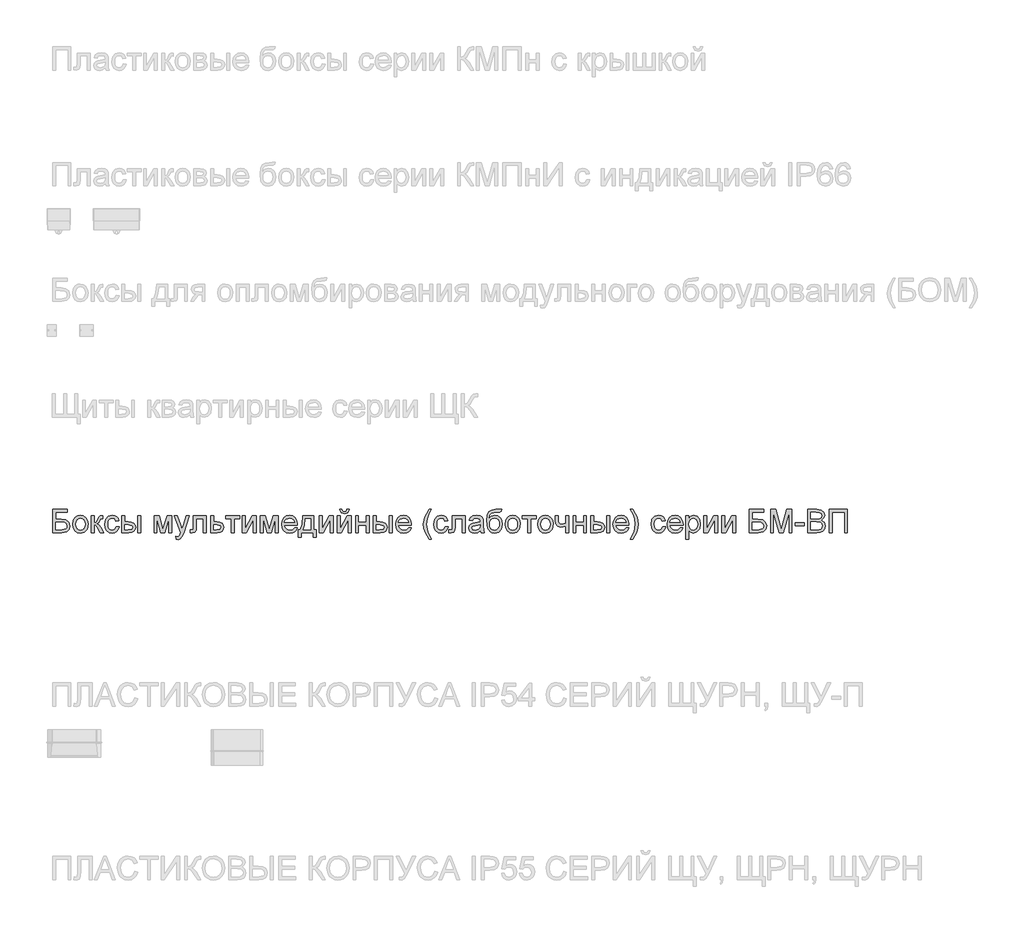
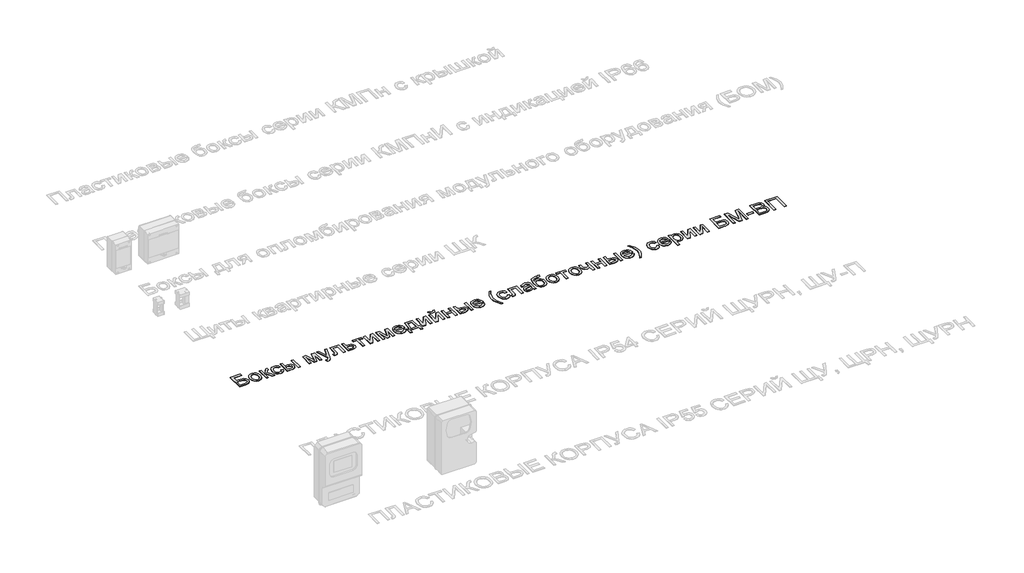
# One storey, part 17 of 25: 1 proxy.
"""IFC4 building model written with IfcOpenShell, lengths in millimetres."""

from ifc_helpers import new_model, si_unit, frame, origin, place, context, project, spatial, polyline, outline, extrude, element, save

model = new_model("IFC4")

# Units and contexts
model_context = context("Model", 3, world=origin())
ifc_project = project(units=[si_unit("LENGTHUNIT", "METRE", prefix="MILLI")], contexts=[model_context])

# Site, building, storey
site = spatial("IfcSite", under=ifc_project)
building = spatial("IfcBuilding", under=site)
storey = spatial("IfcBuildingStorey", under=building, Name="Этаж 01", Elevation=0.0)

# Proxy
placement = place(None, origin())
element("IfcBuildingElementProxy", 1, Name="Надпись на модели 1", ObjectType="Надпись на модели 1", at=placement, inside=storey, context=model_context, shape_type="SweptSolid", body=[
    extrude(outline(polyline([(-19038.1210387, 13636.6915941), (-18975.3358449, 13636.6915941), (-18975.3358449, 13624.1345554), (-19025.564, 13624.1345554), (-19025.564, 13594.3115883), (-19002.0440777, 13594.3115883), (-18981.3200587, 13591.7609398), (-18968.9837491, 13582.1224315), (-18964.348436, 13565.6413181), (-18967.6471112, 13551.3307085), (-18977.4940859, 13540.4536642), (-18999.7877348, 13536.235284), (-19038.1210387, 13536.235284), (-19038.1210387, 13636.6915941)]), holes=[polyline([(-19025.564, 13548.7923228), (-18998.6595634, 13548.7923228), (-18982.3501283, 13552.9371266), (-18978.2666381, 13558.1181313), (-18976.9054747, 13565.371538), (-18980.020209, 13575.20625), (-18988.6899613, 13580.4546998), (-19007.6113586, 13581.7545495), (-19025.564, 13581.7545495), (-19025.564, 13548.7923228)])]), frame((0.0, 0.0, 40.0), z_axis=(0.0, 0.0, 1.0), x_axis=(1.0, 0.0, 0.0)), (0.0, 0.0, 1.0), 2.0),
    extrude(outline(polyline([(-18951.7913972, 13573.1215854), (-18949.0752018, 13590.9086798), (-18940.9266156, 13603.4105363), (-18930.8589117, 13609.5357715), (-18918.804645, 13611.5775166), (-18905.6130097, 13609.0912475), (-18895.0762563, 13601.63244), (-18888.1692718, 13589.7897054), (-18885.8669437, 13574.151655), (-18889.9381711, 13551.8089551), (-18901.796234, 13539.1660772), (-18918.804645, 13534.6656541), (-18932.1556957, 13537.1427262), (-18942.6801864, 13544.5739426), (-18949.5135945, 13556.6649975), (-18951.7913972, 13573.1215854)]), holes=[polyline([(-18939.2343584, 13573.1461108), (-18937.7812245, 13561.7816229), (-18933.4218229, 13553.6851533), (-18926.8612607, 13548.838308), (-18918.804645, 13547.2226929), (-18910.7848175, 13548.8475051), (-18904.2365179, 13553.7219415), (-18899.8771163, 13561.92571), (-18898.4239824, 13573.5385183), (-18899.8863134, 13584.5719125), (-18904.2733061, 13592.5580175), (-18910.8308027, 13597.4048627), (-18918.804645, 13599.0204778), (-18926.8612607, 13597.4109941), (-18933.4218229, 13592.5825429), (-18937.7812245, 13584.5044674), (-18939.2343584, 13573.1461108)])]), frame((0.0, 0.0, 40.0), z_axis=(0.0, 0.0, 1.0), x_axis=(1.0, 0.0, 0.0)), (0.0, 0.0, 1.0), 2.0),
    extrude(outline(polyline([(-18871.740275, 13610.0078868), (-18859.1832363, 13610.0078868), (-18859.1832363, 13578.6152898), (-18850.7710013, 13580.8716327), (-18843.8793453, 13594.0172827), (-18838.1526489, 13605.3603109), (-18833.1004028, 13609.0513936), (-18823.9156157, 13610.0078868), (-18821.51212, 13610.0078868), (-18821.51212, 13597.3772716), (-18824.8966343, 13597.450848), (-18831.0280009, 13596.1264728), (-18835.344483, 13587.8613906), (-18840.4089918, 13578.9218582), (-18847.5091143, 13574.5440624), (-18839.5873887, 13569.6573633), (-18831.8128158, 13559.3627988), (-18818.3728603, 13536.235284), (-18832.6466817, 13536.235284), (-18845.8168571, 13558.8722894), (-18852.438733, 13568.449484), (-18859.1832363, 13570.7671406), (-18859.1832363, 13536.235284), (-18871.740275, 13536.235284), (-18871.740275, 13610.0078868)])), frame((0.0, 0.0, 40.0), z_axis=(0.0, 0.0, 1.0), x_axis=(1.0, 0.0, 0.0)), (0.0, 0.0, 1.0), 2.0),
    extrude(outline(polyline([(-18763.4358157, 13562.9189914), (-18750.8787769, 13561.3493615), (-18754.3797872, 13550.1810773), (-18760.9587436, 13541.7412512), (-18769.9963779, 13536.4345534), (-18780.8734222, 13534.6656541), (-18794.2306043, 13537.1335292), (-18804.6753873, 13544.5371544), (-18811.4168249, 13556.5515672), (-18813.6639707, 13572.8518052), (-18809.8257353, 13593.7107144), (-18798.1270878, 13607.1138817), (-18781.0451005, 13611.5775166), (-18770.4347706, 13610.044675), (-18761.9520249, 13605.44615), (-18755.8666436, 13598.0271964), (-18752.4484067, 13588.0330689), (-18765.0054455, 13586.4634391), (-18770.8302438, 13595.8689554), (-18780.9469986, 13599.0204778), (-18789.0618623, 13597.4692421), (-18795.5028629, 13592.8155349), (-18799.7059147, 13584.8079701), (-18801.106932, 13573.1951618), (-18799.7365715, 13561.4260036), (-18795.6254902, 13553.3908477), (-18789.3009856, 13548.7647316), (-18781.2903552, 13547.2226929), (-18769.4568177, 13551.0731911), (-18763.4358157, 13562.9189914)])), frame((0.0, 0.0, 40.0), z_axis=(0.0, 0.0, 1.0), x_axis=(1.0, 0.0, 0.0)), (0.0, 0.0, 1.0), 2.0),
    extrude(outline(polyline([(-18739.891368, 13610.0078868), (-18727.3343292, 13610.0078868), (-18727.3343292, 13583.3241794), (-18711.809709, 13583.3241794), (-18698.3912132, 13581.7514838), (-18688.4492023, 13577.0333973), (-18682.2963759, 13569.5500643), (-18680.2454338, 13559.6816298), (-18681.9652821, 13550.6961121), (-18687.1248271, 13543.1146773), (-18696.0612939, 13537.9551323), (-18709.1119077, 13536.235284), (-18739.891368, 13536.235284), (-18739.891368, 13610.0078868)]), holes=[polyline([(-18727.3343292, 13548.7923228), (-18714.4339339, 13548.7923228), (-18697.7811423, 13551.4288104), (-18692.8024726, 13559.6571044), (-18696.4935553, 13567.3826263), (-18712.7907277, 13570.7671406), (-18727.3343292, 13570.7671406), (-18727.3343292, 13548.7923228)])]), frame((0.0, 0.0, 40.0), z_axis=(0.0, 0.0, 1.0), x_axis=(1.0, 0.0, 0.0)), (0.0, 0.0, 1.0), 2.0),
    extrude(outline(polyline([(-18670.8276547, 13610.0078868), (-18658.270616, 13610.0078868), (-18658.270616, 13536.235284), (-18670.8276547, 13536.235284), (-18670.8276547, 13610.0078868)])), frame((0.0, 0.0, 40.0), z_axis=(0.0, 0.0, 1.0), x_axis=(1.0, 0.0, 0.0)), (0.0, 0.0, 1.0), 2.0),
    extrude(outline(polyline([(-18600.1943117, 13610.0078868), (-18578.5873758, 13610.0078868), (-18561.9345842, 13550.9505638), (-18543.9819428, 13610.0078868), (-18523.2824492, 13610.0078868), (-18523.2824492, 13536.235284), (-18535.839488, 13536.235284), (-18535.839488, 13595.6359635), (-18553.8902312, 13536.235284), (-18570.3713446, 13536.235284), (-18587.6372729, 13598.4809176), (-18587.6372729, 13536.235284), (-18600.1943117, 13536.235284), (-18600.1943117, 13610.0078868)])), frame((0.0, 0.0, 40.0), z_axis=(0.0, 0.0, 1.0), x_axis=(1.0, 0.0, 0.0)), (0.0, 0.0, 1.0), 2.0),
    extrude(outline(polyline([(-18504.4468911, 13507.9819468), (-18506.0165209, 13520.0730017), (-18499.6398997, 13518.9693557), (-18493.6802113, 13520.3550445), (-18490.0259168, 13524.2178055), (-18486.5923516, 13533.4639063), (-18485.6113329, 13536.5050641), (-18512.2950403, 13610.0078868), (-18499.0512885, 13610.0078868), (-18484.9000944, 13569.050358), (-18479.9704756, 13552.6673464), (-18475.0408569, 13567.1373716), (-18460.4972554, 13610.0078868), (-18447.3516054, 13610.0078868), (-18473.0297687, 13534.4694504), (-18479.7006955, 13518.0864389), (-18486.984759, 13509.2327455), (-18496.7704201, 13506.4123169), (-18504.4468911, 13507.9819468)])), frame((0.0, 0.0, 40.0), z_axis=(0.0, 0.0, 1.0), x_axis=(1.0, 0.0, 0.0)), (0.0, 0.0, 1.0), 2.0),
    extrude(outline(polyline([(-18430.6742883, 13610.0078868), (-18374.1676138, 13610.0078868), (-18374.1676138, 13536.3088604), (-18386.7246526, 13536.3088604), (-18386.7246526, 13597.450848), (-18418.1172495, 13597.450848), (-18418.1172495, 13562.2568038), (-18418.9633781, 13546.0209451), (-18423.610954, 13539.1660772), (-18434.5983629, 13536.235284), (-18444.8009569, 13536.8729461), (-18444.8009569, 13548.7923228), (-18439.1846251, 13548.7923228), (-18433.5069797, 13549.564875), (-18431.238374, 13552.0174216), (-18430.6742883, 13562.9680423), (-18430.6742883, 13610.0078868)])), frame((0.0, 0.0, 40.0), z_axis=(0.0, 0.0, 1.0), x_axis=(1.0, 0.0, 0.0)), (0.0, 0.0, 1.0), 2.0),
    extrude(outline(polyline([(-18355.3320557, 13610.0078868), (-18342.7750169, 13610.0078868), (-18342.7750169, 13583.3241794), (-18328.3049918, 13583.3241794), (-18315.7602157, 13581.7514838), (-18306.4773267, 13577.0333973), (-18300.7383676, 13569.5500643), (-18298.8253812, 13559.6816298), (-18300.453259, 13550.6961121), (-18305.3368925, 13543.1146773), (-18313.8012441, 13537.9551323), (-18326.1712762, 13536.235284), (-18355.3320557, 13536.235284), (-18355.3320557, 13610.0078868)]), holes=[polyline([(-18342.7750169, 13548.7923228), (-18331.051844, 13548.7923228), (-18315.9073685, 13551.4288104), (-18311.38242, 13559.6571044), (-18314.7301461, 13567.3826263), (-18329.5557906, 13570.7671406), (-18342.7750169, 13570.7671406), (-18342.7750169, 13548.7923228)])]), frame((0.0, 0.0, 40.0), z_axis=(0.0, 0.0, 1.0), x_axis=(1.0, 0.0, 0.0)), (0.0, 0.0, 1.0), 2.0),
    extrude(outline(polyline([(-18289.4076021, 13610.0078868), (-18229.761668, 13610.0078868), (-18229.761668, 13597.450848), (-18253.3061157, 13597.450848), (-18253.3061157, 13536.235284), (-18265.8631545, 13536.235284), (-18265.8631545, 13597.450848), (-18289.4076021, 13597.450848), (-18289.4076021, 13610.0078868)])), frame((0.0, 0.0, 40.0), z_axis=(0.0, 0.0, 1.0), x_axis=(1.0, 0.0, 0.0)), (0.0, 0.0, 1.0), 2.0),
    extrude(outline(polyline([(-18218.7742591, 13610.0078868), (-18206.2172203, 13610.0078868), (-18206.2172203, 13553.746467), (-18175.3641836, 13610.0078868), (-18159.1283249, 13610.0078868), (-18159.1283249, 13536.235284), (-18171.6853637, 13536.235284), (-18171.6853637, 13592.1533473), (-18202.3421966, 13536.235284), (-18218.7742591, 13536.235284), (-18218.7742591, 13610.0078868)])), frame((0.0, 0.0, 40.0), z_axis=(0.0, 0.0, 1.0), x_axis=(1.0, 0.0, 0.0)), (0.0, 0.0, 1.0), 2.0),
    extrude(outline(polyline([(-18140.2927668, 13610.0078868), (-18118.6858309, 13610.0078868), (-18102.0330393, 13550.9505638), (-18084.0803979, 13610.0078868), (-18063.3809043, 13610.0078868), (-18063.3809043, 13536.235284), (-18075.9379431, 13536.235284), (-18075.9379431, 13595.6359635), (-18093.9886863, 13536.235284), (-18110.4697997, 13536.235284), (-18127.735728, 13598.4809176), (-18127.735728, 13536.235284), (-18140.2927668, 13536.235284), (-18140.2927668, 13610.0078868)])), frame((0.0, 0.0, 40.0), z_axis=(0.0, 0.0, 1.0), x_axis=(1.0, 0.0, 0.0)), (0.0, 0.0, 1.0), 2.0),
    extrude(outline(polyline([(-17992.894714, 13558.2101018), (-17980.5829299, 13556.640472), (-17985.0189737, 13547.3637143), (-17992.0976364, 13540.4291387), (-18001.6595026, 13536.1065253), (-18013.5451567, 13534.6656541), (-18028.2788306, 13537.1519233), (-18039.6157274, 13544.6107308), (-18046.8446086, 13556.5576985), (-18049.2542357, 13572.5084487), (-18046.8200832, 13588.9956935), (-18039.5176256, 13601.3258717), (-18028.3340129, 13609.0146054), (-18014.2563952, 13611.5775166), (-18000.6171702, 13609.0207367), (-17989.7186661, 13601.3503971), (-17982.5725584, 13589.0447444), (-17980.1905225, 13572.5820251), (-17980.2640989, 13569.1975108), (-18036.6971969, 13569.1975108), (-18034.5236275, 13559.7981258), (-18029.4744471, 13552.8880756), (-18022.1873179, 13548.6390386), (-18013.299902, 13547.2226929), (-18000.9881179, 13549.8469178), (-17992.894714, 13558.2101018)]), holes=[polyline([(-18036.6971969, 13581.7545495), (-17992.7475612, 13581.7545495), (-17997.7752818, 13593.1343659), (-18005.0961335, 13597.5489499), (-18014.3054462, 13599.0204778), (-18029.7687527, 13594.323851), (-18034.6339921, 13588.8332123), (-18036.6971969, 13581.7545495)])]), frame((0.0, 0.0, 40.0), z_axis=(0.0, 0.0, 1.0), x_axis=(1.0, 0.0, 0.0)), (0.0, 0.0, 1.0), 2.0),
    extrude(outline(polyline([(-17956.6460748, 13610.0078868), (-17909.5571794, 13610.0078868), (-17909.5571794, 13548.7923228), (-17900.1394003, 13548.7923228), (-17900.1394003, 13515.830096), (-17912.6964391, 13515.830096), (-17912.6964391, 13536.235284), (-17964.494224, 13536.235284), (-17964.494224, 13515.830096), (-17977.0512628, 13515.830096), (-17977.0512628, 13548.7923228), (-17969.2031135, 13548.7923228), (-17959.5032916, 13572.7414406), (-17956.6460748, 13610.0078868)]), holes=[polyline([(-17945.6586659, 13597.450848), (-17948.6017218, 13568.8418915), (-17955.0764449, 13548.7923228), (-17922.1142182, 13548.7923228), (-17922.1142182, 13597.450848), (-17945.6586659, 13597.450848)])]), frame((0.0, 0.0, 40.0), z_axis=(0.0, 0.0, 1.0), x_axis=(1.0, 0.0, 0.0)), (0.0, 0.0, 1.0), 2.0),
    extrude(outline(polyline([(-17886.0127317, 13610.0078868), (-17873.4556929, 13610.0078868), (-17873.4556929, 13553.746467), (-17842.6026563, 13610.0078868), (-17826.3667975, 13610.0078868), (-17826.3667975, 13536.235284), (-17838.9238363, 13536.235284), (-17838.9238363, 13592.1533473), (-17869.5806692, 13536.235284), (-17886.0127317, 13536.235284), (-17886.0127317, 13610.0078868)])), frame((0.0, 0.0, 40.0), z_axis=(0.0, 0.0, 1.0), x_axis=(1.0, 0.0, 0.0)), (0.0, 0.0, 1.0), 2.0),
    extrude(outline(polyline([(-17807.5312394, 13610.0078868), (-17794.9742006, 13610.0078868), (-17794.9742006, 13553.746467), (-17764.121164, 13610.0078868), (-17747.8853052, 13610.0078868), (-17747.8853052, 13536.235284), (-17760.442344, 13536.235284), (-17760.442344, 13592.1533473), (-17791.0991769, 13536.235284), (-17807.5312394, 13536.235284), (-17807.5312394, 13610.0078868)])), frame((0.0, 0.0, 40.0), z_axis=(0.0, 0.0, 1.0), x_axis=(1.0, 0.0, 0.0)), (0.0, 0.0, 1.0), 2.0),
    extrude(outline(polyline([(-17766.7208634, 13636.6915941), (-17757.3030843, 13636.6915941), (-17763.3976627, 13622.7243411), (-17776.9234574, 13617.856036), (-17791.5651608, 13622.6875529), (-17798.1134603, 13636.6915941), (-17788.6956812, 13636.6915941), (-17785.1640141, 13629.6159971), (-17778.0516288, 13627.2738151), (-17770.2525306, 13629.5424207), (-17766.7208634, 13636.6915941)])), frame((0.0, 0.0, 40.0), z_axis=(0.0, 0.0, 1.0), x_axis=(1.0, 0.0, 0.0)), (0.0, 0.0, 1.0), 2.0),
    extrude(outline(polyline([(-17729.0497471, 13610.0078868), (-17716.4927083, 13610.0078868), (-17716.4927083, 13581.7545495), (-17683.5304816, 13581.7545495), (-17683.5304816, 13610.0078868), (-17670.9734428, 13610.0078868), (-17670.9734428, 13536.235284), (-17683.5304816, 13536.235284), (-17683.5304816, 13569.1975108), (-17716.4927083, 13569.1975108), (-17716.4927083, 13536.235284), (-17729.0497471, 13536.235284), (-17729.0497471, 13610.0078868)])), frame((0.0, 0.0, 40.0), z_axis=(0.0, 0.0, 1.0), x_axis=(1.0, 0.0, 0.0)), (0.0, 0.0, 1.0), 2.0),
    extrude(outline(polyline([(-17583.0741714, 13610.0078868), (-17570.5171326, 13610.0078868), (-17570.5171326, 13536.235284), (-17583.0741714, 13536.235284), (-17583.0741714, 13610.0078868)])), frame((0.0, 0.0, 40.0), z_axis=(0.0, 0.0, 1.0), x_axis=(1.0, 0.0, 0.0)), (0.0, 0.0, 1.0), 2.0),
    extrude(outline(polyline([(-17652.1378846, 13610.0078868), (-17639.5808459, 13610.0078868), (-17639.5808459, 13583.3241794), (-17624.0562257, 13583.3241794), (-17610.6377299, 13581.7514838), (-17600.695719, 13577.0333973), (-17594.5428926, 13569.5500643), (-17592.4919505, 13559.6816298), (-17594.2117988, 13550.6961121), (-17599.3713438, 13543.1146773), (-17608.3078106, 13537.9551323), (-17621.3584244, 13536.235284), (-17652.1378846, 13536.235284), (-17652.1378846, 13610.0078868)]), holes=[polyline([(-17639.5808459, 13548.7923228), (-17626.6804506, 13548.7923228), (-17610.0276589, 13551.4288104), (-17605.0489892, 13559.6571044), (-17608.7400719, 13567.3826263), (-17625.0372443, 13570.7671406), (-17639.5808459, 13570.7671406), (-17639.5808459, 13548.7923228)])]), frame((0.0, 0.0, 40.0), z_axis=(0.0, 0.0, 1.0), x_axis=(1.0, 0.0, 0.0)), (0.0, 0.0, 1.0), 2.0),
    extrude(outline(polyline([(-17500.0309424, 13558.2101018), (-17487.7191583, 13556.640472), (-17492.155202, 13547.3637143), (-17499.2338647, 13540.4291387), (-17508.7957309, 13536.1065253), (-17520.681385, 13534.6656541), (-17535.4150589, 13537.1519233), (-17546.7519557, 13544.6107308), (-17553.980837, 13556.5576985), (-17556.390464, 13572.5084487), (-17553.9563115, 13588.9956935), (-17546.6538539, 13601.3258717), (-17535.4702412, 13609.0146054), (-17521.3926235, 13611.5775166), (-17507.7533986, 13609.0207367), (-17496.8548945, 13601.3503971), (-17489.7087867, 13589.0447444), (-17487.3267508, 13572.5820251), (-17487.4003272, 13569.1975108), (-17543.8334253, 13569.1975108), (-17541.6598558, 13559.7981258), (-17536.6106754, 13552.8880756), (-17529.3235462, 13548.6390386), (-17520.4361304, 13547.2226929), (-17508.1243463, 13549.8469178), (-17500.0309424, 13558.2101018)]), holes=[polyline([(-17543.8334253, 13581.7545495), (-17499.8837896, 13581.7545495), (-17504.9115102, 13593.1343659), (-17512.2323619, 13597.5489499), (-17521.4416745, 13599.0204778), (-17536.904981, 13594.323851), (-17541.7702204, 13588.8332123), (-17543.8334253, 13581.7545495)])]), frame((0.0, 0.0, 40.0), z_axis=(0.0, 0.0, 1.0), x_axis=(1.0, 0.0, 0.0)), (0.0, 0.0, 1.0), 2.0),
    extrude(outline(polyline([(-17410.4148883, 13507.9819468), (-17428.2449024, 13537.4370318), (-17433.70795, 13554.617121), (-17435.5289659, 13572.4103469), (-17430.0843123, 13602.9445525), (-17410.4148883, 13636.6915941), (-17400.9971093, 13636.6915941), (-17412.7448076, 13616.8014409), (-17419.8081419, 13597.5244244), (-17422.9719271, 13572.3367705), (-17417.4782226, 13540.1470959), (-17400.9971093, 13507.9819468), (-17410.4148883, 13507.9819468)])), frame((0.0, 0.0, 40.0), z_axis=(0.0, 0.0, 1.0), x_axis=(1.0, 0.0, 0.0)), (0.0, 0.0, 1.0), 2.0),
    extrude(outline(polyline([(-17341.3511751, 13562.9189914), (-17328.7941363, 13561.3493615), (-17332.2951467, 13550.1810773), (-17338.874103, 13541.7412512), (-17347.9117374, 13536.4345534), (-17358.7887817, 13534.6656541), (-17372.1459638, 13537.1335292), (-17382.5907468, 13544.5371544), (-17389.3321843, 13556.5515672), (-17391.5793302, 13572.8518052), (-17387.7410947, 13593.7107144), (-17376.0424473, 13607.1138817), (-17358.9604599, 13611.5775166), (-17348.3501301, 13610.044675), (-17339.8673844, 13605.44615), (-17333.7820031, 13598.0271964), (-17330.3637662, 13588.0330689), (-17342.920805, 13586.4634391), (-17348.7456032, 13595.8689554), (-17358.8623581, 13599.0204778), (-17366.9772218, 13597.4692421), (-17373.4182224, 13592.8155349), (-17377.6212741, 13584.8079701), (-17379.0222914, 13573.1951618), (-17377.651931, 13561.4260036), (-17373.5408497, 13553.3908477), (-17367.2163451, 13548.7647316), (-17359.2057146, 13547.2226929), (-17347.3721771, 13551.0731911), (-17341.3511751, 13562.9189914)])), frame((0.0, 0.0, 40.0), z_axis=(0.0, 0.0, 1.0), x_axis=(1.0, 0.0, 0.0)), (0.0, 0.0, 1.0), 2.0),
    extrude(outline(polyline([(-17311.528208, 13610.0078868), (-17255.0215336, 13610.0078868), (-17255.0215336, 13536.3088604), (-17267.5785723, 13536.3088604), (-17267.5785723, 13597.450848), (-17298.9711693, 13597.450848), (-17298.9711693, 13562.2568038), (-17299.8172979, 13546.0209451), (-17304.4648737, 13539.1660772), (-17315.4522826, 13536.235284), (-17325.6548766, 13536.8729461), (-17325.6548766, 13548.7923228), (-17320.0385449, 13548.7923228), (-17314.3608994, 13549.564875), (-17312.0922938, 13552.0174216), (-17311.528208, 13562.9680423), (-17311.528208, 13610.0078868)])), frame((0.0, 0.0, 40.0), z_axis=(0.0, 0.0, 1.0), x_axis=(1.0, 0.0, 0.0)), (0.0, 0.0, 1.0), 2.0),
    extrude(outline(polyline([(-17189.09708, 13545.6530631), (-17201.2739741, 13537.1427262), (-17214.7261924, 13534.6656541), (-17225.2200263, 13536.1555762), (-17232.9608766, 13540.6253425), (-17237.7341455, 13547.4127653), (-17239.3252351, 13555.8556571), (-17236.9217394, 13565.7884709), (-17230.6064318, 13572.998958), (-17221.8140521, 13577.1192364), (-17210.9492705, 13579.0076973), (-17189.1706564, 13583.3241794), (-17189.09708, 13586.1200825), (-17192.5551708, 13595.3907088), (-17206.4365847, 13599.0204778), (-17219.1407763, 13596.6047194), (-17225.1985665, 13588.0330689), (-17237.7556053, 13589.6026988), (-17232.3232145, 13601.8654319), (-17221.3848565, 13609.0513936), (-17204.817904, 13611.5775166), (-17189.5998521, 13609.3456992), (-17181.0036761, 13603.7416301), (-17177.1531779, 13595.2190306), (-17176.5400413, 13584.2316216), (-17176.5400413, 13568.6088996), (-17175.9023791, 13546.7934973), (-17173.4007816, 13536.235284), (-17185.9578203, 13536.235284), (-17189.09708, 13545.6530631)]), holes=[polyline([(-17189.09708, 13570.7671406), (-17209.3551152, 13566.9166424), (-17220.1585832, 13564.8810287), (-17225.0514137, 13561.5700907), (-17226.7681963, 13556.7385739), (-17223.0280627, 13549.9450197), (-17212.0529165, 13547.2226929), (-17199.348725, 13550.2270625), (-17191.1572192, 13557.4988633), (-17189.1706564, 13567.210948), (-17189.09708, 13570.7671406)])]), frame((0.0, 0.0, 40.0), z_axis=(0.0, 0.0, 1.0), x_axis=(1.0, 0.0, 0.0)), (0.0, 0.0, 1.0), 2.0),
    extrude(outline(polyline([(-17107.476328, 13638.261224), (-17096.4889191, 13638.261224), (-17099.7262807, 13628.4633002), (-17106.1274274, 13624.9193703), (-17121.5048948, 13624.1345554), (-17142.2166511, 13621.2405503), (-17150.1629022, 13611.9699241), (-17152.8484408, 13595.5623871), (-17141.9713965, 13607.5798656), (-17127.9550924, 13611.5775166), (-17114.8891502, 13609.0360652), (-17104.2880174, 13601.4117108), (-17097.2614713, 13589.4524803), (-17094.9192893, 13573.9064003), (-17099.5668651, 13552.2994644), (-17110.5910623, 13539.2641791), (-17127.9550924, 13534.6656541), (-17139.2889236, 13536.1463792), (-17147.783932, 13540.5885543), (-17158.6364508, 13555.7452925), (-17162.4133727, 13587.9104416), (-17160.0313367, 13612.0036466), (-17152.885229, 13626.6974666), (-17140.7972398, 13634.1930623), (-17123.5895594, 13636.6915941), (-17109.6100436, 13636.973637), (-17107.476328, 13638.261224)]), holes=[polyline([(-17107.476328, 13574.2988078), (-17108.8374914, 13584.179505), (-17112.9209816, 13592.0920336), (-17119.4815438, 13597.2883668), (-17128.2739235, 13599.0204778), (-17137.4403165, 13597.1902649), (-17144.2400021, 13591.6996261), (-17148.4522509, 13583.1494354), (-17149.8563339, 13572.1405667), (-17148.3050981, 13561.4689232), (-17143.6513909, 13553.6361024), (-17136.7229467, 13548.8260453), (-17128.3474999, 13547.2226929), (-17119.9291336, 13549.0774313), (-17113.2643381, 13554.6416465), (-17108.9233306, 13563.2654136), (-17107.476328, 13574.2988078)])]), frame((0.0, 0.0, 40.0), z_axis=(0.0, 0.0, 1.0), x_axis=(1.0, 0.0, 0.0)), (0.0, 0.0, 1.0), 2.0),
    extrude(outline(polyline([(-17082.3622505, 13573.1215854), (-17079.6460551, 13590.9086798), (-17071.4974689, 13603.4105363), (-17061.429765, 13609.5357715), (-17049.3754983, 13611.5775166), (-17036.1838631, 13609.0912475), (-17025.6471096, 13601.63244), (-17018.7401251, 13589.7897054), (-17016.437797, 13574.151655), (-17020.5090244, 13551.8089551), (-17032.3670874, 13539.1660772), (-17049.3754983, 13534.6656541), (-17062.726549, 13537.1427262), (-17073.2510398, 13544.5739426), (-17080.0844478, 13556.6649975), (-17082.3622505, 13573.1215854)]), holes=[polyline([(-17069.8052117, 13573.1461108), (-17068.3520779, 13561.7816229), (-17063.9926762, 13553.6851533), (-17057.432114, 13548.838308), (-17049.3754983, 13547.2226929), (-17041.3556708, 13548.8475051), (-17034.8073713, 13553.7219415), (-17030.4479696, 13561.92571), (-17028.9948357, 13573.5385183), (-17030.4571667, 13584.5719125), (-17034.8441595, 13592.5580175), (-17041.401656, 13597.4048627), (-17049.3754983, 13599.0204778), (-17057.432114, 13597.4109941), (-17063.9926762, 13592.5825429), (-17068.3520779, 13584.5044674), (-17069.8052117, 13573.1461108)])]), frame((0.0, 0.0, 40.0), z_axis=(0.0, 0.0, 1.0), x_axis=(1.0, 0.0, 0.0)), (0.0, 0.0, 1.0), 2.0),
    extrude(outline(polyline([(-17008.5896477, 13610.0078868), (-16948.9437136, 13610.0078868), (-16948.9437136, 13597.450848), (-16972.4881613, 13597.450848), (-16972.4881613, 13536.235284), (-16985.0452, 13536.235284), (-16985.0452, 13597.450848), (-17008.5896477, 13597.450848), (-17008.5896477, 13610.0078868)])), frame((0.0, 0.0, 40.0), z_axis=(0.0, 0.0, 1.0), x_axis=(1.0, 0.0, 0.0)), (0.0, 0.0, 1.0), 2.0),
    extrude(outline(polyline([(-16941.0955644, 13573.1215854), (-16938.379369, 13590.9086798), (-16930.2307828, 13603.4105363), (-16920.1630788, 13609.5357715), (-16908.1088121, 13611.5775166), (-16894.9171769, 13609.0912475), (-16884.3804234, 13601.63244), (-16877.473439, 13589.7897054), (-16875.1711108, 13574.151655), (-16879.2423382, 13551.8089551), (-16891.1004012, 13539.1660772), (-16908.1088121, 13534.6656541), (-16921.4598629, 13537.1427262), (-16931.9843536, 13544.5739426), (-16938.8177617, 13556.6649975), (-16941.0955644, 13573.1215854)]), holes=[polyline([(-16928.5385256, 13573.1461108), (-16927.0853917, 13561.7816229), (-16922.7259901, 13553.6851533), (-16916.1654278, 13548.838308), (-16908.1088121, 13547.2226929), (-16900.0889846, 13548.8475051), (-16893.5406851, 13553.7219415), (-16889.1812835, 13561.92571), (-16887.7281496, 13573.5385183), (-16889.1904805, 13584.5719125), (-16893.5774733, 13592.5580175), (-16900.1349699, 13597.4048627), (-16908.1088121, 13599.0204778), (-16916.1654278, 13597.4109941), (-16922.7259901, 13592.5825429), (-16927.0853917, 13584.5044674), (-16928.5385256, 13573.1461108)])]), frame((0.0, 0.0, 40.0), z_axis=(0.0, 0.0, 1.0), x_axis=(1.0, 0.0, 0.0)), (0.0, 0.0, 1.0), 2.0),
    extrude(outline(polyline([(-16865.7533317, 13610.0078868), (-16853.196293, 13610.0078868), (-16853.196293, 13595.8566927), (-16852.1784861, 13582.5884154), (-16847.2856556, 13575.4024537), (-16837.5735709, 13572.3367705), (-16820.2340662, 13576.1382177), (-16820.2340662, 13610.0078868), (-16807.6770274, 13610.0078868), (-16807.6770274, 13536.235284), (-16820.2340662, 13536.235284), (-16820.2340662, 13564.0962138), (-16840.9335598, 13559.7797317), (-16855.170593, 13564.2801548), (-16863.5460398, 13575.3043519), (-16865.7533317, 13589.6517497), (-16865.7533317, 13610.0078868)])), frame((0.0, 0.0, 40.0), z_axis=(0.0, 0.0, 1.0), x_axis=(1.0, 0.0, 0.0)), (0.0, 0.0, 1.0), 2.0),
    extrude(outline(polyline([(-16788.8414693, 13610.0078868), (-16776.2844305, 13610.0078868), (-16776.2844305, 13581.7545495), (-16743.3222037, 13581.7545495), (-16743.3222037, 13610.0078868), (-16730.765165, 13610.0078868), (-16730.765165, 13536.235284), (-16743.3222037, 13536.235284), (-16743.3222037, 13569.1975108), (-16776.2844305, 13569.1975108), (-16776.2844305, 13536.235284), (-16788.8414693, 13536.235284), (-16788.8414693, 13610.0078868)])), frame((0.0, 0.0, 40.0), z_axis=(0.0, 0.0, 1.0), x_axis=(1.0, 0.0, 0.0)), (0.0, 0.0, 1.0), 2.0),
    extrude(outline(polyline([(-16642.8658936, 13610.0078868), (-16630.3088548, 13610.0078868), (-16630.3088548, 13536.235284), (-16642.8658936, 13536.235284), (-16642.8658936, 13610.0078868)])), frame((0.0, 0.0, 40.0), z_axis=(0.0, 0.0, 1.0), x_axis=(1.0, 0.0, 0.0)), (0.0, 0.0, 1.0), 2.0),
    extrude(outline(polyline([(-16711.9296068, 13610.0078868), (-16699.3725681, 13610.0078868), (-16699.3725681, 13583.3241794), (-16683.8479479, 13583.3241794), (-16670.4294521, 13581.7514838), (-16660.4874412, 13577.0333973), (-16654.3346148, 13569.5500643), (-16652.2836727, 13559.6816298), (-16654.003521, 13550.6961121), (-16659.163066, 13543.1146773), (-16668.0995328, 13537.9551323), (-16681.1501466, 13536.235284), (-16711.9296068, 13536.235284), (-16711.9296068, 13610.0078868)]), holes=[polyline([(-16699.3725681, 13548.7923228), (-16686.4721728, 13548.7923228), (-16669.8193811, 13551.4288104), (-16664.8407114, 13559.6571044), (-16668.5317941, 13567.3826263), (-16684.8289665, 13570.7671406), (-16699.3725681, 13570.7671406), (-16699.3725681, 13548.7923228)])]), frame((0.0, 0.0, 40.0), z_axis=(0.0, 0.0, 1.0), x_axis=(1.0, 0.0, 0.0)), (0.0, 0.0, 1.0), 2.0),
    extrude(outline(polyline([(-16559.8226646, 13558.2101018), (-16547.5108804, 13556.640472), (-16551.9469242, 13547.3637143), (-16559.0255869, 13540.4291387), (-16568.5874531, 13536.1065253), (-16580.4731072, 13534.6656541), (-16595.2067811, 13537.1519233), (-16606.5436779, 13544.6107308), (-16613.7725591, 13556.5576985), (-16616.1821862, 13572.5084487), (-16613.7480337, 13588.9956935), (-16606.4455761, 13601.3258717), (-16595.2619634, 13609.0146054), (-16581.1843457, 13611.5775166), (-16567.5451208, 13609.0207367), (-16556.6466167, 13601.3503971), (-16549.5005089, 13589.0447444), (-16547.118473, 13572.5820251), (-16547.1920494, 13569.1975108), (-16603.6251474, 13569.1975108), (-16601.451578, 13559.7981258), (-16596.4023976, 13552.8880756), (-16589.1152684, 13548.6390386), (-16580.2278526, 13547.2226929), (-16567.9160684, 13549.8469178), (-16559.8226646, 13558.2101018)]), holes=[polyline([(-16603.6251474, 13581.7545495), (-16559.6755118, 13581.7545495), (-16564.7032324, 13593.1343659), (-16572.0240841, 13597.5489499), (-16581.2333967, 13599.0204778), (-16596.6967032, 13594.323851), (-16601.5619426, 13588.8332123), (-16603.6251474, 13581.7545495)])]), frame((0.0, 0.0, 40.0), z_axis=(0.0, 0.0, 1.0), x_axis=(1.0, 0.0, 0.0)), (0.0, 0.0, 1.0), 2.0),
    extrude(outline(polyline([(-16531.4221745, 13507.9819468), (-16540.8399536, 13507.9819468), (-16524.3588402, 13540.1470959), (-16518.8651358, 13572.3367705), (-16522.0289209, 13597.3036952), (-16529.0186788, 13616.6052372), (-16540.8399536, 13636.6915941), (-16531.4221745, 13636.6915941), (-16511.7527505, 13602.9445525), (-16506.308097, 13572.4103469), (-16508.1383099, 13554.617121), (-16513.6289487, 13537.4370318), (-16531.4221745, 13507.9819468)])), frame((0.0, 0.0, 40.0), z_axis=(0.0, 0.0, 1.0), x_axis=(1.0, 0.0, 0.0)), (0.0, 0.0, 1.0), 2.0),
    extrude(outline(polyline([(-16401.1428973, 13562.9189914), (-16388.5858585, 13561.3493615), (-16392.0868689, 13550.1810773), (-16398.6658252, 13541.7412512), (-16407.7034595, 13536.4345534), (-16418.5805039, 13534.6656541), (-16431.937686, 13537.1335292), (-16442.382469, 13544.5371544), (-16449.1239065, 13556.5515672), (-16451.3710524, 13572.8518052), (-16447.5328169, 13593.7107144), (-16435.8341694, 13607.1138817), (-16418.7521821, 13611.5775166), (-16408.1418523, 13610.044675), (-16399.6591066, 13605.44615), (-16393.5737252, 13598.0271964), (-16390.1554884, 13588.0330689), (-16402.7125271, 13586.4634391), (-16408.5373254, 13595.8689554), (-16418.6540803, 13599.0204778), (-16426.7689439, 13597.4692421), (-16433.2099445, 13592.8155349), (-16437.4129963, 13584.8079701), (-16438.8140136, 13573.1951618), (-16437.4436532, 13561.4260036), (-16433.3325719, 13553.3908477), (-16427.0080672, 13548.7647316), (-16418.9974368, 13547.2226929), (-16407.1638993, 13551.0731911), (-16401.1428973, 13562.9189914)])), frame((0.0, 0.0, 40.0), z_axis=(0.0, 0.0, 1.0), x_axis=(1.0, 0.0, 0.0)), (0.0, 0.0, 1.0), 2.0),
    extrude(outline(polyline([(-16325.9478175, 13558.2101018), (-16313.6360334, 13556.640472), (-16318.0720771, 13547.3637143), (-16325.1507398, 13540.4291387), (-16334.712606, 13536.1065253), (-16346.5982601, 13534.6656541), (-16361.3319341, 13537.1519233), (-16372.6688309, 13544.6107308), (-16379.8977121, 13556.5576985), (-16382.3073391, 13572.5084487), (-16379.8731866, 13588.9956935), (-16372.570729, 13601.3258717), (-16361.3871164, 13609.0146054), (-16347.3094987, 13611.5775166), (-16333.6702737, 13609.0207367), (-16322.7717696, 13601.3503971), (-16315.6256618, 13589.0447444), (-16313.2436259, 13572.5820251), (-16313.3172023, 13569.1975108), (-16369.7503004, 13569.1975108), (-16367.5767309, 13559.7981258), (-16362.5275505, 13552.8880756), (-16355.2404214, 13548.6390386), (-16346.3530055, 13547.2226929), (-16334.0412214, 13549.8469178), (-16325.9478175, 13558.2101018)]), holes=[polyline([(-16369.7503004, 13581.7545495), (-16325.8006647, 13581.7545495), (-16330.8283853, 13593.1343659), (-16338.149237, 13597.5489499), (-16347.3585496, 13599.0204778), (-16362.8218561, 13594.323851), (-16367.6870955, 13588.8332123), (-16369.7503004, 13581.7545495)])]), frame((0.0, 0.0, 40.0), z_axis=(0.0, 0.0, 1.0), x_axis=(1.0, 0.0, 0.0)), (0.0, 0.0, 1.0), 2.0),
    extrude(outline(polyline([(-16300.6865872, 13507.9819468), (-16300.6865872, 13610.0078868), (-16288.1295484, 13610.0078868), (-16288.1295484, 13597.6961027), (-16279.4475333, 13608.1071631), (-16267.7243604, 13611.5775166), (-16251.8073327, 13606.7214743), (-16241.408535, 13593.036264), (-16237.9013933, 13573.6856711), (-16241.8622561, 13553.3417968), (-16253.3646998, 13539.4849083), (-16269.2449393, 13534.6656541), (-16280.1710346, 13537.890753), (-16288.1295484, 13546.0454705), (-16288.1295484, 13507.9819468), (-16300.6865872, 13507.9819468)]), holes=[polyline([(-16288.1295484, 13572.5329742), (-16286.7714507, 13561.2757851), (-16282.6971576, 13553.4031104), (-16276.6853526, 13548.7677973), (-16269.5147194, 13547.2226929), (-16262.2275902, 13548.8229796), (-16256.0625011, 13553.6238396), (-16251.8594493, 13561.7846886), (-16250.4584321, 13573.4649419), (-16251.8257268, 13584.6608173), (-16255.9276111, 13592.6438566), (-16261.930219, 13597.4263225), (-16268.9996846, 13599.0204778), (-16276.0967415, 13597.325155), (-16282.3292756, 13592.2391864), (-16286.6794802, 13583.9219876), (-16288.1295484, 13572.5329742)])]), frame((0.0, 0.0, 40.0), z_axis=(0.0, 0.0, 1.0), x_axis=(1.0, 0.0, 0.0)), (0.0, 0.0, 1.0), 2.0),
    extrude(outline(polyline([(-16223.7747247, 13610.0078868), (-16211.2176859, 13610.0078868), (-16211.2176859, 13553.746467), (-16180.3646493, 13610.0078868), (-16164.1287905, 13610.0078868), (-16164.1287905, 13536.235284), (-16176.6858293, 13536.235284), (-16176.6858293, 13592.1533473), (-16207.3426622, 13536.235284), (-16223.7747247, 13536.235284), (-16223.7747247, 13610.0078868)])), frame((0.0, 0.0, 40.0), z_axis=(0.0, 0.0, 1.0), x_axis=(1.0, 0.0, 0.0)), (0.0, 0.0, 1.0), 2.0),
    extrude(outline(polyline([(-16145.2932324, 13610.0078868), (-16132.7361936, 13610.0078868), (-16132.7361936, 13553.746467), (-16101.883157, 13610.0078868), (-16085.6472982, 13610.0078868), (-16085.6472982, 13536.235284), (-16098.204337, 13536.235284), (-16098.204337, 13592.1533473), (-16128.8611699, 13536.235284), (-16145.2932324, 13536.235284), (-16145.2932324, 13610.0078868)])), frame((0.0, 0.0, 40.0), z_axis=(0.0, 0.0, 1.0), x_axis=(1.0, 0.0, 0.0)), (0.0, 0.0, 1.0), 2.0),
    extrude(outline(polyline([(-16026.0013641, 13636.6915941), (-15963.2161702, 13636.6915941), (-15963.2161702, 13624.1345554), (-16013.4443253, 13624.1345554), (-16013.4443253, 13594.3115883), (-15989.9244031, 13594.3115883), (-15969.200384, 13591.7609398), (-15956.8640745, 13582.1224315), (-15952.2287613, 13565.6413181), (-15955.5274365, 13551.3307085), (-15965.3744113, 13540.4536642), (-15987.6680602, 13536.235284), (-16026.0013641, 13536.235284), (-16026.0013641, 13636.6915941)]), holes=[polyline([(-16013.4443253, 13548.7923228), (-15986.5398887, 13548.7923228), (-15970.2304536, 13552.9371266), (-15966.1469635, 13558.1181313), (-15964.7858001, 13565.371538), (-15967.9005343, 13575.20625), (-15976.5702867, 13580.4546998), (-15995.491684, 13581.7545495), (-16013.4443253, 13581.7545495), (-16013.4443253, 13548.7923228)])]), frame((0.0, 0.0, 40.0), z_axis=(0.0, 0.0, 1.0), x_axis=(1.0, 0.0, 0.0)), (0.0, 0.0, 1.0), 2.0),
    extrude(outline(polyline([(-15934.962833, 13536.235284), (-15934.962833, 13636.6915941), (-15913.3558972, 13636.6915941), (-15892.8035564, 13565.8865728), (-15888.6587526, 13551.0977166), (-15884.1705922, 13567.1128461), (-15863.9616079, 13636.6915941), (-15842.3546721, 13636.6915941), (-15842.3546721, 13536.235284), (-15854.9117109, 13536.235284), (-15854.9117109, 13624.1345554), (-15880.1484157, 13536.235284), (-15897.1690894, 13536.235284), (-15922.4057942, 13624.1345554), (-15922.4057942, 13536.235284), (-15934.962833, 13536.235284)])), frame((0.0, 0.0, 40.0), z_axis=(0.0, 0.0, 1.0), x_axis=(1.0, 0.0, 0.0)), (0.0, 0.0, 1.0), 2.0),
    extrude(outline(polyline([(-15828.2280035, 13566.0582511), (-15828.2280035, 13578.6152898), (-15788.9872573, 13578.6152898), (-15788.9872573, 13566.0582511), (-15828.2280035, 13566.0582511)])), frame((0.0, 0.0, 40.0), z_axis=(0.0, 0.0, 1.0), x_axis=(1.0, 0.0, 0.0)), (0.0, 0.0, 1.0), 2.0),
    extrude(outline(polyline([(-15773.2909589, 13536.235284), (-15773.2909589, 13636.6915941), (-15734.957655, 13636.6915941), (-15716.1834105, 13633.7362754), (-15705.0978997, 13624.6495902), (-15701.0879859, 13611.7982458), (-15704.4602376, 13600.0628102), (-15714.6505688, 13591.1723286), (-15702.2774711, 13581.8036005), (-15697.9487263, 13566.1808784), (-15700.9040449, 13552.6796092), (-15708.2248967, 13543.0656264), (-15719.1509919, 13537.9643294), (-15735.2519606, 13536.235284), (-15773.2909589, 13536.235284)]), holes=[polyline([(-15760.7339201, 13595.8812181), (-15737.8026091, 13595.8812181), (-15724.4117044, 13596.9603387), (-15716.3550887, 13601.6079145), (-15713.6450247, 13609.7871576), (-15716.1711477, 13617.9786633), (-15723.4061603, 13622.8224429), (-15739.5439172, 13624.1345554), (-15760.7339201, 13624.1345554), (-15760.7339201, 13595.8812181)]), polyline([(-15760.7339201, 13548.7923228), (-15734.9821804, 13548.7923228), (-15725.6625032, 13549.2828321), (-15717.7775658, 13552.0174216), (-15712.5536415, 13557.5969652), (-15710.505765, 13566.0582511), (-15712.9092607, 13575.8193867), (-15720.6960963, 13581.6441849), (-15736.2084538, 13583.3241794), (-15760.7339201, 13583.3241794), (-15760.7339201, 13548.7923228)])]), frame((0.0, 0.0, 40.0), z_axis=(0.0, 0.0, 1.0), x_axis=(1.0, 0.0, 0.0)), (0.0, 0.0, 1.0), 2.0),
    extrude(outline(polyline([(-15680.6827979, 13636.6915941), (-15602.2013056, 13636.6915941), (-15602.2013056, 13536.235284), (-15614.7583444, 13536.235284), (-15614.7583444, 13624.1345554), (-15668.1257592, 13624.1345554), (-15668.1257592, 13536.235284), (-15680.6827979, 13536.235284), (-15680.6827979, 13636.6915941)])), frame((0.0, 0.0, 40.0), z_axis=(0.0, 0.0, 1.0), x_axis=(1.0, 0.0, 0.0)), (0.0, 0.0, 1.0), 2.0),
])

save(model, "model.ifc")
